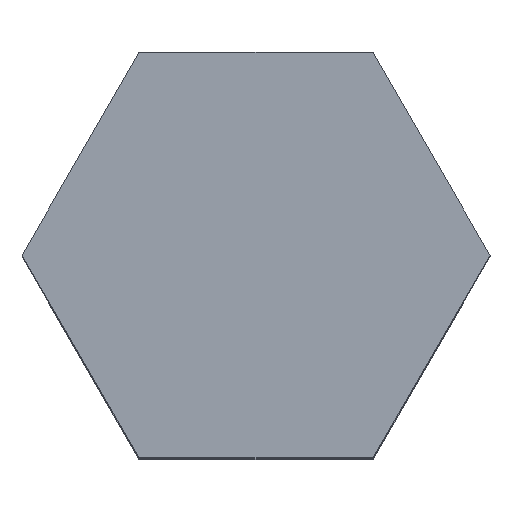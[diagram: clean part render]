
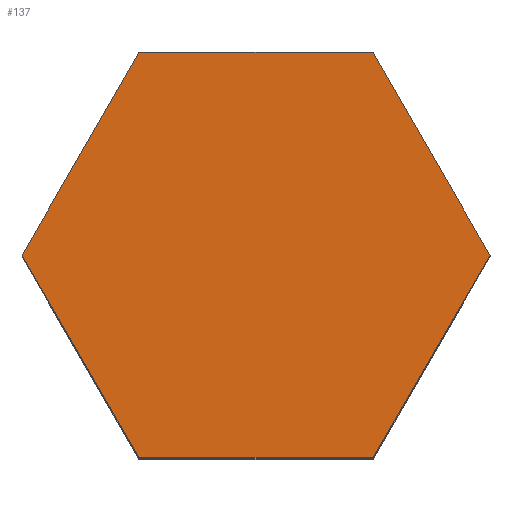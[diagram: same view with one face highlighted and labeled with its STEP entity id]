
A CAD part, top view. The second image highlights one B-rep face of the part: STEP entity #137.
In plain terms, the highlighted planar face has unit normal (0, 0, 1).
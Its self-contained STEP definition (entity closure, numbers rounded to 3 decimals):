
#24 = VERTEX_POINT('',#25);
#25 = CARTESIAN_POINT('',(4.619,0.,3.5));
#32 = PLANE('',#33);
#33 = AXIS2_PLACEMENT_3D('',#34,#35,#36);
#34 = CARTESIAN_POINT('',(4.619,0.,0.));
#35 = DIRECTION('',(-0.866,-0.5,0.));
#36 = DIRECTION('',(-0.5,0.866,0.));
#44 = PLANE('',#45);
#45 = AXIS2_PLACEMENT_3D('',#46,#47,#48);
#46 = CARTESIAN_POINT('',(2.309,-4.,0.));
#47 = DIRECTION('',(-0.866,0.5,0.));
#48 = DIRECTION('',(0.5,0.866,0.));
#56 = EDGE_CURVE('',#24,#57,#59,.T.);
#57 = VERTEX_POINT('',#58);
#58 = CARTESIAN_POINT('',(2.309,4.,3.5));
#59 = SURFACE_CURVE('',#60,(#64,#71),.PCURVE_S1.);
#60 = LINE('',#61,#62);
#61 = CARTESIAN_POINT('',(4.619,0.,3.5));
#62 = VECTOR('',#63,1.);
#63 = DIRECTION('',(-0.5,0.866,0.));
#64 = PCURVE('',#32,#65);
#65 = DEFINITIONAL_REPRESENTATION('',(#66),#70);
#66 = LINE('',#67,#68);
#67 = CARTESIAN_POINT('',(0.,-3.5));
#68 = VECTOR('',#69,1.);
#69 = DIRECTION('',(1.,0.));
#70 = ( GEOMETRIC_REPRESENTATION_CONTEXT(2) 
PARAMETRIC_REPRESENTATION_CONTEXT() REPRESENTATION_CONTEXT('2D SPACE',''
  ) );
#71 = PCURVE('',#72,#77);
#72 = PLANE('',#73);
#73 = AXIS2_PLACEMENT_3D('',#74,#75,#76);
#74 = CARTESIAN_POINT('',(0.,0.,3.5));
#75 = DIRECTION('',(0.,0.,1.));
#76 = DIRECTION('',(1.,0.,0.));
#77 = DEFINITIONAL_REPRESENTATION('',(#78),#82);
#78 = LINE('',#79,#80);
#79 = CARTESIAN_POINT('',(4.619,0.));
#80 = VECTOR('',#81,1.);
#81 = DIRECTION('',(-0.5,0.866));
#82 = ( GEOMETRIC_REPRESENTATION_CONTEXT(2) 
PARAMETRIC_REPRESENTATION_CONTEXT() REPRESENTATION_CONTEXT('2D SPACE',''
  ) );
#100 = PLANE('',#101);
#101 = AXIS2_PLACEMENT_3D('',#102,#103,#104);
#102 = CARTESIAN_POINT('',(2.309,4.,0.));
#103 = DIRECTION('',(0.,-1.,0.));
#104 = DIRECTION('',(-1.,0.,0.));
#137 = ADVANCED_FACE('',(#138),#72,.T.);
#138 = FACE_BOUND('',#139,.T.);
#139 = EDGE_LOOP('',(#140,#141,#164,#192,#220,#248));
#140 = ORIENTED_EDGE('',*,*,#56,.T.);
#141 = ORIENTED_EDGE('',*,*,#142,.T.);
#142 = EDGE_CURVE('',#57,#143,#145,.T.);
#143 = VERTEX_POINT('',#144);
#144 = CARTESIAN_POINT('',(-2.309,4.,3.5));
#145 = SURFACE_CURVE('',#146,(#150,#157),.PCURVE_S1.);
#146 = LINE('',#147,#148);
#147 = CARTESIAN_POINT('',(2.309,4.,3.5));
#148 = VECTOR('',#149,1.);
#149 = DIRECTION('',(-1.,0.,0.));
#150 = PCURVE('',#72,#151);
#151 = DEFINITIONAL_REPRESENTATION('',(#152),#156);
#152 = LINE('',#153,#154);
#153 = CARTESIAN_POINT('',(2.309,4.));
#154 = VECTOR('',#155,1.);
#155 = DIRECTION('',(-1.,0.));
#156 = ( GEOMETRIC_REPRESENTATION_CONTEXT(2) 
PARAMETRIC_REPRESENTATION_CONTEXT() REPRESENTATION_CONTEXT('2D SPACE',''
  ) );
#157 = PCURVE('',#100,#158);
#158 = DEFINITIONAL_REPRESENTATION('',(#159),#163);
#159 = LINE('',#160,#161);
#160 = CARTESIAN_POINT('',(0.,-3.5));
#161 = VECTOR('',#162,1.);
#162 = DIRECTION('',(1.,0.));
#163 = ( GEOMETRIC_REPRESENTATION_CONTEXT(2) 
PARAMETRIC_REPRESENTATION_CONTEXT() REPRESENTATION_CONTEXT('2D SPACE',''
  ) );
#164 = ORIENTED_EDGE('',*,*,#165,.T.);
#165 = EDGE_CURVE('',#143,#166,#168,.T.);
#166 = VERTEX_POINT('',#167);
#167 = CARTESIAN_POINT('',(-4.619,0.,3.5));
#168 = SURFACE_CURVE('',#169,(#173,#180),.PCURVE_S1.);
#169 = LINE('',#170,#171);
#170 = CARTESIAN_POINT('',(-2.309,4.,3.5));
#171 = VECTOR('',#172,1.);
#172 = DIRECTION('',(-0.5,-0.866,0.));
#173 = PCURVE('',#72,#174);
#174 = DEFINITIONAL_REPRESENTATION('',(#175),#179);
#175 = LINE('',#176,#177);
#176 = CARTESIAN_POINT('',(-2.309,4.));
#177 = VECTOR('',#178,1.);
#178 = DIRECTION('',(-0.5,-0.866));
#179 = ( GEOMETRIC_REPRESENTATION_CONTEXT(2) 
PARAMETRIC_REPRESENTATION_CONTEXT() REPRESENTATION_CONTEXT('2D SPACE',''
  ) );
#180 = PCURVE('',#181,#186);
#181 = PLANE('',#182);
#182 = AXIS2_PLACEMENT_3D('',#183,#184,#185);
#183 = CARTESIAN_POINT('',(-2.309,4.,0.));
#184 = DIRECTION('',(0.866,-0.5,0.));
#185 = DIRECTION('',(-0.5,-0.866,0.));
#186 = DEFINITIONAL_REPRESENTATION('',(#187),#191);
#187 = LINE('',#188,#189);
#188 = CARTESIAN_POINT('',(0.,-3.5));
#189 = VECTOR('',#190,1.);
#190 = DIRECTION('',(1.,0.));
#191 = ( GEOMETRIC_REPRESENTATION_CONTEXT(2) 
PARAMETRIC_REPRESENTATION_CONTEXT() REPRESENTATION_CONTEXT('2D SPACE',''
  ) );
#192 = ORIENTED_EDGE('',*,*,#193,.T.);
#193 = EDGE_CURVE('',#166,#194,#196,.T.);
#194 = VERTEX_POINT('',#195);
#195 = CARTESIAN_POINT('',(-2.309,-4.,3.5));
#196 = SURFACE_CURVE('',#197,(#201,#208),.PCURVE_S1.);
#197 = LINE('',#198,#199);
#198 = CARTESIAN_POINT('',(-4.619,0.,3.5));
#199 = VECTOR('',#200,1.);
#200 = DIRECTION('',(0.5,-0.866,0.));
#201 = PCURVE('',#72,#202);
#202 = DEFINITIONAL_REPRESENTATION('',(#203),#207);
#203 = LINE('',#204,#205);
#204 = CARTESIAN_POINT('',(-4.619,0.));
#205 = VECTOR('',#206,1.);
#206 = DIRECTION('',(0.5,-0.866));
#207 = ( GEOMETRIC_REPRESENTATION_CONTEXT(2) 
PARAMETRIC_REPRESENTATION_CONTEXT() REPRESENTATION_CONTEXT('2D SPACE',''
  ) );
#208 = PCURVE('',#209,#214);
#209 = PLANE('',#210);
#210 = AXIS2_PLACEMENT_3D('',#211,#212,#213);
#211 = CARTESIAN_POINT('',(-4.619,0.,0.));
#212 = DIRECTION('',(0.866,0.5,0.));
#213 = DIRECTION('',(0.5,-0.866,0.));
#214 = DEFINITIONAL_REPRESENTATION('',(#215),#219);
#215 = LINE('',#216,#217);
#216 = CARTESIAN_POINT('',(0.,-3.5));
#217 = VECTOR('',#218,1.);
#218 = DIRECTION('',(1.,0.));
#219 = ( GEOMETRIC_REPRESENTATION_CONTEXT(2) 
PARAMETRIC_REPRESENTATION_CONTEXT() REPRESENTATION_CONTEXT('2D SPACE',''
  ) );
#220 = ORIENTED_EDGE('',*,*,#221,.T.);
#221 = EDGE_CURVE('',#194,#222,#224,.T.);
#222 = VERTEX_POINT('',#223);
#223 = CARTESIAN_POINT('',(2.309,-4.,3.5));
#224 = SURFACE_CURVE('',#225,(#229,#236),.PCURVE_S1.);
#225 = LINE('',#226,#227);
#226 = CARTESIAN_POINT('',(-2.309,-4.,3.5));
#227 = VECTOR('',#228,1.);
#228 = DIRECTION('',(1.,0.,0.));
#229 = PCURVE('',#72,#230);
#230 = DEFINITIONAL_REPRESENTATION('',(#231),#235);
#231 = LINE('',#232,#233);
#232 = CARTESIAN_POINT('',(-2.309,-4.));
#233 = VECTOR('',#234,1.);
#234 = DIRECTION('',(1.,0.));
#235 = ( GEOMETRIC_REPRESENTATION_CONTEXT(2) 
PARAMETRIC_REPRESENTATION_CONTEXT() REPRESENTATION_CONTEXT('2D SPACE',''
  ) );
#236 = PCURVE('',#237,#242);
#237 = PLANE('',#238);
#238 = AXIS2_PLACEMENT_3D('',#239,#240,#241);
#239 = CARTESIAN_POINT('',(-2.309,-4.,0.));
#240 = DIRECTION('',(0.,1.,0.));
#241 = DIRECTION('',(1.,0.,0.));
#242 = DEFINITIONAL_REPRESENTATION('',(#243),#247);
#243 = LINE('',#244,#245);
#244 = CARTESIAN_POINT('',(0.,-3.5));
#245 = VECTOR('',#246,1.);
#246 = DIRECTION('',(1.,0.));
#247 = ( GEOMETRIC_REPRESENTATION_CONTEXT(2) 
PARAMETRIC_REPRESENTATION_CONTEXT() REPRESENTATION_CONTEXT('2D SPACE',''
  ) );
#248 = ORIENTED_EDGE('',*,*,#249,.T.);
#249 = EDGE_CURVE('',#222,#24,#250,.T.);
#250 = SURFACE_CURVE('',#251,(#255,#262),.PCURVE_S1.);
#251 = LINE('',#252,#253);
#252 = CARTESIAN_POINT('',(2.309,-4.,3.5));
#253 = VECTOR('',#254,1.);
#254 = DIRECTION('',(0.5,0.866,0.));
#255 = PCURVE('',#72,#256);
#256 = DEFINITIONAL_REPRESENTATION('',(#257),#261);
#257 = LINE('',#258,#259);
#258 = CARTESIAN_POINT('',(2.309,-4.));
#259 = VECTOR('',#260,1.);
#260 = DIRECTION('',(0.5,0.866));
#261 = ( GEOMETRIC_REPRESENTATION_CONTEXT(2) 
PARAMETRIC_REPRESENTATION_CONTEXT() REPRESENTATION_CONTEXT('2D SPACE',''
  ) );
#262 = PCURVE('',#44,#263);
#263 = DEFINITIONAL_REPRESENTATION('',(#264),#268);
#264 = LINE('',#265,#266);
#265 = CARTESIAN_POINT('',(0.,-3.5));
#266 = VECTOR('',#267,1.);
#267 = DIRECTION('',(1.,0.));
#268 = ( GEOMETRIC_REPRESENTATION_CONTEXT(2) 
PARAMETRIC_REPRESENTATION_CONTEXT() REPRESENTATION_CONTEXT('2D SPACE',''
  ) );
